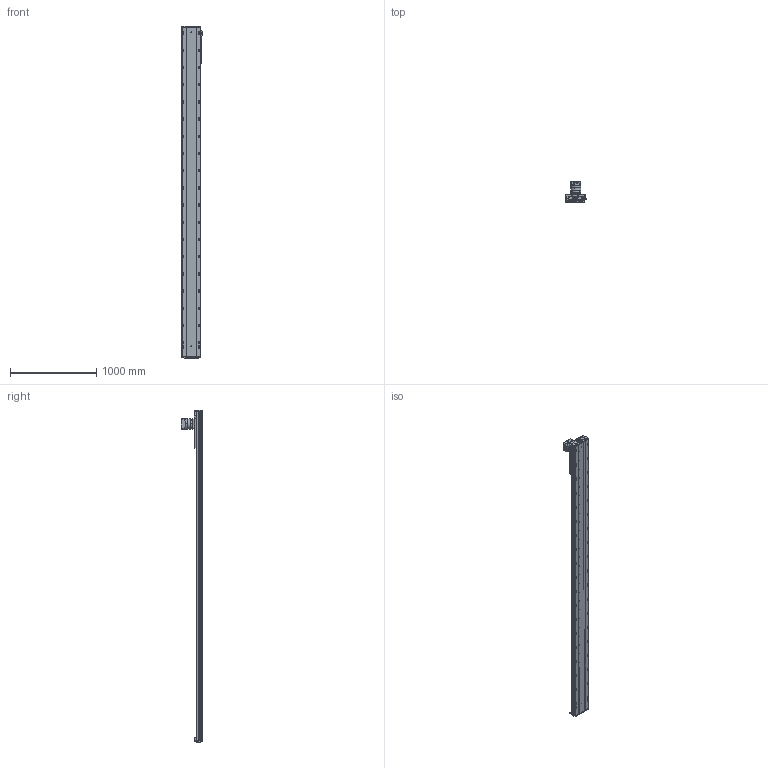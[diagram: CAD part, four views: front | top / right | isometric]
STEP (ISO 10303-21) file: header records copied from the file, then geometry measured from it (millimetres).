
FILE_DESCRIPTION (( 'STEP AP203' ), '1' );
FILE_NAME ('RY220-C-300-UK.SLDASM_3350.step', '2022-08-01T06:00:59', ( '' ), ( '' ), 'SwSTEP 2.0', 'SolidWorks 2016', '' );
FILE_SCHEMA (( 'CONFIG_CONTROL_DESIGN' ));
Length unit declared in the file: millimetre
Products named in the file (10): 覜茼ん674; PF115L1-S2-22-58-110-145-M8; RY220喘沭賑輸; RY220喘沭綴裔啣; RY220-C-300-UK.SLDASM_3350; RY220喘沭俋离覜茼え; RY140直线电机感应器674光电安装座; RY220菁釱MK-300_3350; RY220-齿条模组电机安装板; 滅袉蝶輸ㄗG412隅秶ㄘ
Assembly tree (12 placements, depth 2):
  RY220-C-300-UK.SLDASM_3350
    RY220菁釱MK-300_3350
    RY220喘沭賑輸
    RY220-齿条模组电机安装板
    PF115L1-S2-22-58-110-145-M8
    RY220喘沭綴裔啣  x2
    滅袉蝶輸ㄗG412隅秶ㄘ  x2
    RY140直线电机感应器674光电安装座
    覜茼ん674  x2
    RY220喘沭俋离覜茼え
Bounding box: 247 x 244.5 x 3859 mm (x, y, z)
Volume: 25038155.8 mm3; surface area: 5197422.7 mm2
Topology: 18 solids, 26 shells, 2526 faces, 6825 edges, 4233 vertices
Faces by surface type: cylinder 1259, plane 751, cone 354, bspline 162
Entity records: 80629 total; most frequent: CARTESIAN_POINT 21783, DIRECTION 12235, ORIENTED_EDGE 11842, EDGE_CURVE 5921, AXIS2_PLACEMENT_3D 4713, VERTEX_POINT 3859, EDGE_LOOP 3000, VECTOR 2809
